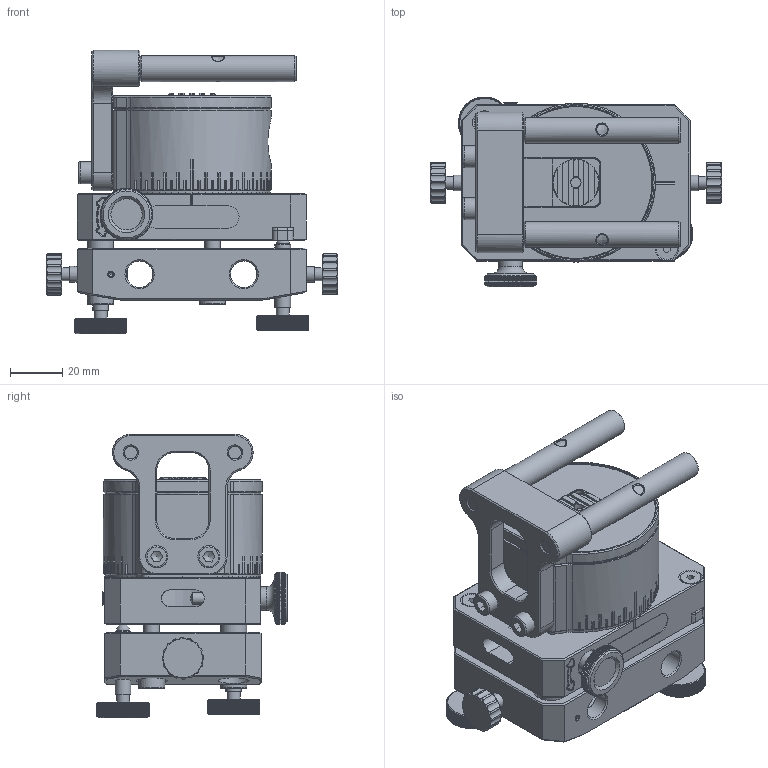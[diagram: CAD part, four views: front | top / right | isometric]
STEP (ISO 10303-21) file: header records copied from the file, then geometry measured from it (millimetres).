
FILE_DESCRIPTION(/* description */ (''),/* implementation_level */ '2;1');
FILE_NAME(/* name */ 'LM-9936-0149 XK PENTAPRISM OPTIC.stp',/* time_stamp */ '2021-03-18T10:00:37+00:00',/* author */ (''),/* organization */ (''),/* preprocessor_version */ 'ST-DEVELOPER v16.7',/* originating_system */ 'SIEMENS PLM Software NX 1942',/* authorisation */ '');
FILE_SCHEMA (('AUTOMOTIVE_DESIGN { 1 0 10303 214 3 1 1 1 }'));
Products named in the file (1): LM-9936-0149-A_XK PENTAPRISM OPTIC
Bounding box: 111.88 x 72.99 x 108.81 mm (x, y, z)
Volume: 268540.2 mm3; surface area: 74964 mm2
Topology: 1 solids, 15 shells, 3043 faces, 8522 edges, 5562 vertices
Faces by surface type: plane 1817, cylinder 841, cone 284, bspline 84, torus 13, sphere 4
Full cylindrical faces by diameter (mm): 2.459 x2, 3.242 x2, 3.7 x3, 4 x3, 4.134 x6, 4.2 x2, 4.5 x1, 4.917 x4, 5 x6, 5.3 x3, 6 x10, 7 x3, 8 x4, 8.5 x2, 9 x1, 10 x8, 10.2 x2, 12 x3, 14 x2, 18 x2, 24 x1, 32 x1, 35 x1, 48 x1, 60 x1
Entity records: 121671 total; most frequent: CARTESIAN_POINT 30936, ORIENTED_EDGE 16972, DIRECTION 12367, EDGE_CURVE 8486, VERTEX_POINT 5562, AXIS2_PLACEMENT_3D 4819, EDGE_LOOP 3175, PRESENTATION_STYLE_ASSIGNMENT 3044
